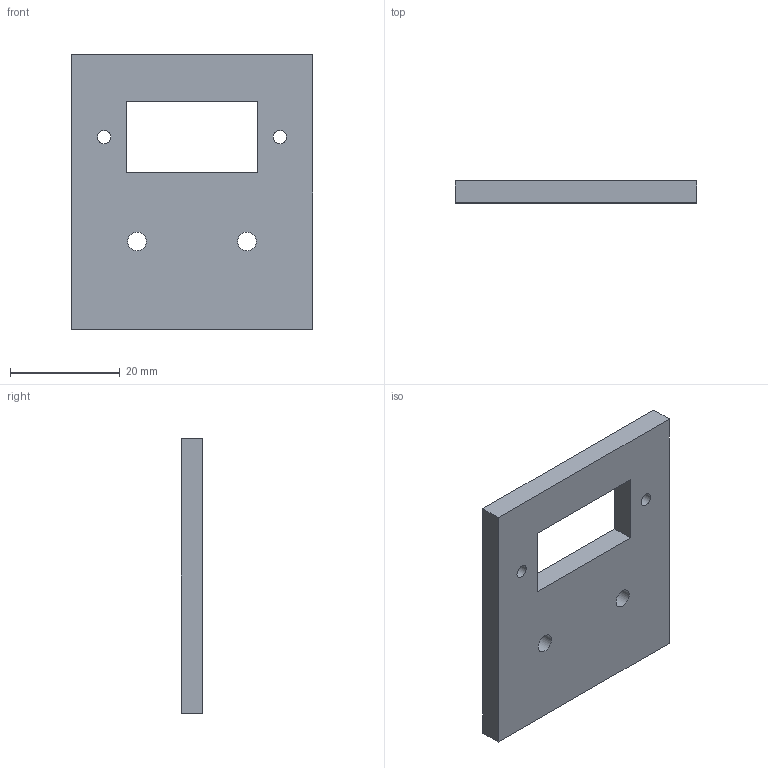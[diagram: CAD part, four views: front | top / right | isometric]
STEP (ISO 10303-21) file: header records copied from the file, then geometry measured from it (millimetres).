
FILE_DESCRIPTION(('Open CASCADE Model'),'2;1');
FILE_NAME('Open CASCADE Shape Model','2026-09-12T16:48:07',('Author'),( 'Open CASCADE'),'Open CASCADE STEP processor 7.9','Open CASCADE 7.9' ,'Unknown');
FILE_SCHEMA(('AUTOMOTIVE_DESIGN { 1 0 10303 214 1 1 1 1 }'));
Length unit declared in the file: millimetre
Products named in the file (1): Open CASCADE STEP translator 7.9 23
Bounding box: 44 x 4 x 50 mm (x, y, z)
Volume: 7443.2 mm3; surface area: 4915.4 mm2
Topology: 1 solids, 1 shells, 14 faces, 36 edges, 24 vertices
Faces by surface type: plane 10, cylinder 4
Full cylindrical faces by diameter (mm): 2.4 x2, 3.4 x2
Entity records: 926 total; most frequent: CARTESIAN_POINT 147, DIRECTION 146, LINE 92, VECTOR 92, ORIENTED_EDGE 72, PCURVE 72, DEFINITIONAL_REPRESENTATION 72, EDGE_CURVE 36
